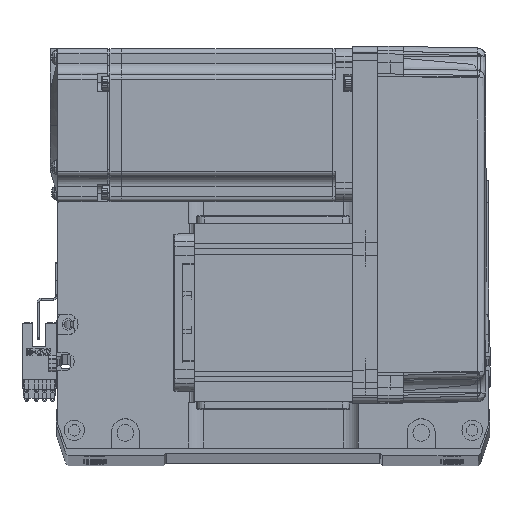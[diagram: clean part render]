
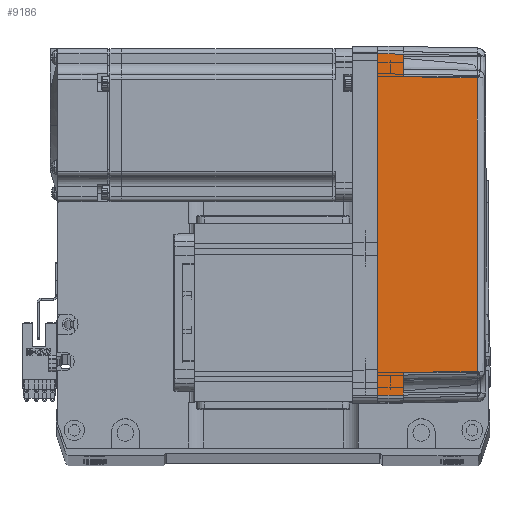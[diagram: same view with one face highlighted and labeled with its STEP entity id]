
A CAD part, top view. The second image highlights one B-rep face of the part: STEP entity #9186.
In plain terms, the highlighted planar face has unit normal (0.018, 0, 1) as drawn and (0, -1, 0.017) by its records, which use the part's own axes.
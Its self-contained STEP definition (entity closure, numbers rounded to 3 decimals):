
#3 = CARTESIAN_POINT ( 'NONE',  ( -57.495, -35.32, 38.985 ) ) ;
#2246 = CARTESIAN_POINT ( 'NONE',  ( 58., -35.825, 10. ) ) ;
#4446 = DIRECTION ( 'NONE',  ( -1., 0., 0. ) ) ;
#5767 = EDGE_CURVE ( 'NONE', #10270, #62846, #20539, .T. ) ;
#6049 = LINE ( 'NONE', #20172, #24040 ) ;
#6683 = VECTOR ( 'NONE', #30189, 1000. ) ;
#9186 = ADVANCED_FACE ( 'NONE', ( #12870 ), #65317, .T. ) ;
#10270 = VERTEX_POINT ( 'NONE', #44358 ) ;
#10888 = ORIENTED_EDGE ( 'NONE', *, *, #18049, .T. ) ;
#12606 = ORIENTED_EDGE ( 'NONE', *, *, #51719, .F. ) ;
#12870 = FACE_OUTER_BOUND ( 'NONE', #41463, .T. ) ;
#16083 = B_SPLINE_CURVE_WITH_KNOTS ( 'NONE', 3,
 ( #21907, #63296, #63949, #42492 ),
 .UNSPECIFIED., .F., .F.,
 ( 4, 4 ),
 ( 0., 1. ),
 .UNSPECIFIED. ) ;
#16737 = VERTEX_POINT ( 'NONE', #2246 ) ;
#16902 = EDGE_CURVE ( 'NONE', #63214, #16737, #47804, .T. ) ;
#17234 = VECTOR ( 'NONE', #62411, 1000. ) ;
#18049 = EDGE_CURVE ( 'NONE', #23019, #10270, #16083, .T. ) ;
#18113 = LINE ( 'NONE', #20639, #6683 ) ;
#18752 = LINE ( 'NONE', #19560, #26098 ) ;
#19560 = CARTESIAN_POINT ( 'NONE',  ( 67., -36., 0. ) ) ;
#19924 = CARTESIAN_POINT ( 'NONE',  ( 67., -36., 0. ) ) ;
#20172 = CARTESIAN_POINT ( 'NONE',  ( -66.959, -35.958, 2.39 ) ) ;
#20539 = LINE ( 'NONE', #3, #17234 ) ;
#20639 = CARTESIAN_POINT ( 'NONE',  ( 70., -35.825, 10. ) ) ;
#21880 = VERTEX_POINT ( 'NONE', #22943 ) ;
#21907 = CARTESIAN_POINT ( 'NONE',  ( 57.495, -35.32, 38.985 ) ) ;
#22943 = CARTESIAN_POINT ( 'NONE',  ( -66.826, -35.825, 10. ) ) ;
#22986 = CARTESIAN_POINT ( 'NONE',  ( 70., -36., 0. ) ) ;
#23019 = VERTEX_POINT ( 'NONE', #31616 ) ;
#24040 = VECTOR ( 'NONE', #55801, 1000. ) ;
#24726 = ORIENTED_EDGE ( 'NONE', *, *, #5767, .T. ) ;
#24932 = CARTESIAN_POINT ( 'NONE',  ( 58., -35.825, 10. ) ) ;
#26098 = VECTOR ( 'NONE', #61403, 1000. ) ;
#26982 = ORIENTED_EDGE ( 'NONE', *, *, #47374, .T. ) ;
#28068 = ORIENTED_EDGE ( 'NONE', *, *, #56978, .F. ) ;
#28257 = ORIENTED_EDGE ( 'NONE', *, *, #32496, .T. ) ;
#30189 = DIRECTION ( 'NONE',  ( -1., 0., 0. ) ) ;
#31616 = CARTESIAN_POINT ( 'NONE',  ( 57.495, -35.32, 38.985 ) ) ;
#32496 = EDGE_CURVE ( 'NONE', #54209, #63214, #18752, .T. ) ;
#32596 = VECTOR ( 'NONE', #4446, 1000. ) ;
#33016 = ORIENTED_EDGE ( 'NONE', *, *, #39778, .T. ) ;
#33850 = VECTOR ( 'NONE', #46049, 1000. ) ;
#38327 = DIRECTION ( 'NONE',  ( 0., -0.017, -1. ) ) ;
#39468 = LINE ( 'NONE', #24932, #53417 ) ;
#39778 = EDGE_CURVE ( 'NONE', #16737, #23019, #39468, .T. ) ;
#39817 = DIRECTION ( 'NONE',  ( -0.017, 0.017, 1. ) ) ;
#39968 = LINE ( 'NONE', #56801, #32596 ) ;
#41463 = EDGE_LOOP ( 'NONE', ( #28257, #60691, #33016, #10888, #24726, #26982, #12606, #28068 ) ) ;
#42492 = CARTESIAN_POINT ( 'NONE',  ( -57.495, -35.32, 38.985 ) ) ;
#44358 = CARTESIAN_POINT ( 'NONE',  ( -57.495, -35.32, 38.985 ) ) ;
#46049 = DIRECTION ( 'NONE',  ( -1., 0., 0. ) ) ;
#46282 = CARTESIAN_POINT ( 'NONE',  ( 70., -35.825, 10. ) ) ;
#47374 = EDGE_CURVE ( 'NONE', #62846, #21880, #18113, .T. ) ;
#47804 = LINE ( 'NONE', #46282, #33850 ) ;
#48483 = VERTEX_POINT ( 'NONE', #53664 ) ;
#51719 = EDGE_CURVE ( 'NONE', #48483, #21880, #6049, .T. ) ;
#53417 = VECTOR ( 'NONE', #39817, 1000. ) ;
#53664 = CARTESIAN_POINT ( 'NONE',  ( -67., -36., 0. ) ) ;
#54209 = VERTEX_POINT ( 'NONE', #19924 ) ;
#55209 = CARTESIAN_POINT ( 'NONE',  ( -58., -35.825, 10. ) ) ;
#55801 = DIRECTION ( 'NONE',  ( 0.017, 0.017, 1. ) ) ;
#56801 = CARTESIAN_POINT ( 'NONE',  ( 0., -36., 0. ) ) ;
#56978 = EDGE_CURVE ( 'NONE', #54209, #48483, #39968, .T. ) ;
#59347 = AXIS2_PLACEMENT_3D ( 'NONE', #22986, #60036, #38327 ) ;
#60036 = DIRECTION ( 'NONE',  ( 0., -1., 0.017 ) ) ;
#60167 = CARTESIAN_POINT ( 'NONE',  ( 66.826, -35.825, 10. ) ) ;
#60691 = ORIENTED_EDGE ( 'NONE', *, *, #16902, .T. ) ;
#61403 = DIRECTION ( 'NONE',  ( -0.017, 0.017, 1. ) ) ;
#62411 = DIRECTION ( 'NONE',  ( -0.017, -0.017, -1. ) ) ;
#62846 = VERTEX_POINT ( 'NONE', #55209 ) ;
#63214 = VERTEX_POINT ( 'NONE', #60167 ) ;
#63296 = CARTESIAN_POINT ( 'NONE',  ( 19.165, -35.316, 39.181 ) ) ;
#63949 = CARTESIAN_POINT ( 'NONE',  ( -19.165, -35.316, 39.181 ) ) ;
#65317 = PLANE ( 'NONE',  #59347 ) ;
